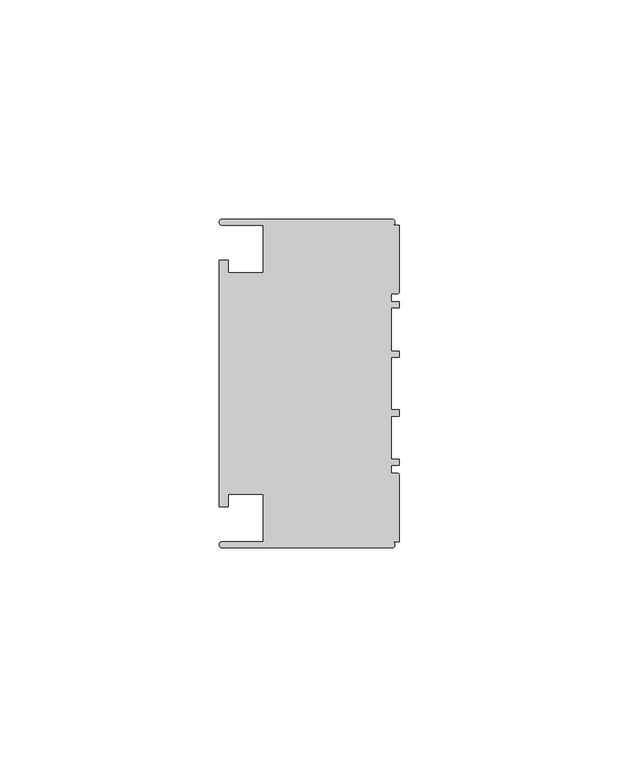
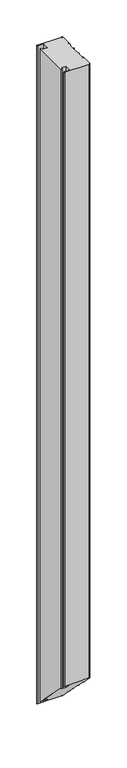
"""IFC4 building model written with IfcOpenShell, lengths in millimetres: member geometry, Прямоугольный импост : 3-AMG-2-Профиль 40Х75 Верх П."""

from ifc_helpers import new_model, si_unit, frame, origin, place, context, project, spatial, circle_curve, ellipse_curve, source, transform, mapped, element, save
from ifc_brep_helpers import plane_surface, cylinder_surface, advanced_brep


def member_57abd591(model_context):
    return source(origin(), model_context, "Body", "AdvancedBrep", [
        advanced_brep(
        [(-1.7, -37.5, 0.0), (-1.7, -36.1, 0.0), (0.0, -36.1, 0.0), (0.0, -20.95, 0.0), (-0.5, -20.45, 0.0), (-1.8, -20.45, 0.0), (-1.8, -18.65, 0.0), (0.0, -18.65, 0.0), (0.0, -17.25, 0.0), (-1.8, -17.25, 0.0), (-1.8, -7.4, 0.0), (0.0, -7.4, 0.0), (0.0, -6.0, 0.0), (-1.8, -6.0, 0.0), (-1.8, 6.0, 0.0), (0.0, 6.0, 0.0), (0.0, 7.4, 0.0), (-1.8, 7.4, 0.0), (-1.8, 17.25, 0.0), (0.0, 17.25, 0.0), (0.0, 18.65, 0.0), (-1.8, 18.65, 0.0), (-1.8, 20.45, 0.0), (-0.5, 20.45, 0.0), (0.0, 20.95, 0.0), (0.0, 36.1, 0.0), (-1.7, 36.1, 0.0), (-1.7, 37.5, 0.0), (-40.4, 37.5, 0.0), (-40.4, 36.1, 0.0), (-31.0, 36.1, 0.0), (-31.0, 25.25, 0.0), (-39.0, 25.25, 0.0), (-39.0, 28.1, 0.0), (-41.1, 28.1, 0.0), (-41.1, -28.1, 0.0), (-39.0, -28.1, 0.0), (-39.0, -25.25, 0.0), (-31.0, -25.25, 0.0), (-31.0, -36.1, 0.0), (-40.4, -36.1, 0.0), (-40.4, -37.5, 0.0), (-1.7, -37.5, -1021.4), (-1.7, -36.1, -1022.8), (0.0, -36.1, -1022.8), (0.0, -20.95, -1037.95), (-0.5, -20.45, -1038.45), (-1.8, -20.45, -1038.45), (-1.8, -18.65, -1040.25), (0.0, -18.65, -1040.25), (0.0, -17.25, -1041.65), (-1.8, -17.25, -1041.65), (-1.8, -7.4, -1051.5), (0.0, -7.4, -1051.5), (0.0, -6.0, -1052.9), (-1.8, -6.0, -1052.9), (-1.8, 6.0, -1064.9), (0.0, 6.0, -1064.9), (0.0, 7.4, -1066.3), (-1.8, 7.4, -1066.3), (-1.8, 17.25, -1076.15), (0.0, 17.25, -1076.15), (0.0, 18.65, -1077.55), (-1.8, 18.65, -1077.55), (-1.8, 20.45, -1079.35), (-0.5, 20.45, -1079.35), (0.0, 20.95, -1079.85), (0.0, 36.1, -1095.0), (-1.7, 36.1, -1095.0), (-1.7, 37.5, -1096.4), (-40.4, 37.5, -1096.4), (-40.4, 36.1, -1095.0), (-31.0, 36.1, -1095.0), (-31.0, 25.25, -1084.15), (-39.0, 25.25, -1084.15), (-39.0, 28.1, -1087.0), (-41.1, 28.1, -1087.0), (-41.1, -28.1, -1030.8), (-39.0, -28.1, -1030.8), (-39.0, -25.25, -1033.65), (-31.0, -25.25, -1033.65), (-31.0, -36.1, -1022.8), (-40.4, -36.1, -1022.8), (-40.4, -37.5, -1021.4)],
        [
            (0, 1, circle_curve(frame((-1.7, -36.8, 0.0), z_axis=(0.0, 0.0, 1.0), x_axis=(-1.0, 0.0, 0.0)), 0.7)),
            (1, 2),
            (2, 3),
            (3, 4, circle_curve(frame((-0.5, -20.95, 0.0), z_axis=(0.0, 0.0, 1.0), x_axis=(1.0, 0.0, 0.0)), 0.5)),
            (4, 5),
            (5, 6),
            (6, 7),
            (7, 8),
            (8, 9),
            (9, 10),
            (10, 11),
            (11, 12),
            (12, 13),
            (13, 14),
            (14, 15),
            (15, 16),
            (16, 17),
            (17, 18),
            (18, 19),
            (19, 20),
            (20, 21),
            (21, 22),
            (22, 23),
            (23, 24, circle_curve(frame((-0.5, 20.95, 0.0), z_axis=(0.0, 0.0, 1.0), x_axis=(0.0, -1.0, 0.0)), 0.5)),
            (24, 25),
            (25, 26),
            (26, 27, circle_curve(frame((-1.7, 36.8, 0.0), z_axis=(0.0, 0.0, 1.0), x_axis=(-1.0, 0.0, 0.0)), 0.7)),
            (27, 28),
            (28, 29, circle_curve(frame((-40.4, 36.8, 0.0), z_axis=(0.0, 0.0, 1.0), x_axis=(-1.0, 0.0, 0.0)), 0.7)),
            (29, 30),
            (30, 31),
            (31, 32),
            (32, 33),
            (33, 34),
            (34, 35),
            (35, 36),
            (36, 37),
            (37, 38),
            (38, 39),
            (39, 40),
            (40, 41, circle_curve(frame((-40.4, -36.8, 0.0), z_axis=(0.0, 0.0, 1.0), x_axis=(-1.0, 0.0, 0.0)), 0.7)),
            (41, 0),
            (0, 42),
            (42, 43, ellipse_curve(frame((-1.7, -36.8, -1022.1), z_axis=(0.0, 0.7071067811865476, 0.7071067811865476), x_axis=(0.0, -0.7071067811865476, 0.7071067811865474)), 0.9899495, 0.7)),
            (43, 1),
            (43, 44),
            (44, 2),
            (44, 45),
            (45, 3),
            (45, 46, ellipse_curve(frame((-0.5, -20.95, -1037.95), z_axis=(0.0, 0.7071067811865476, 0.7071067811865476), x_axis=(0.0, -0.7071067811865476, 0.7071067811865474)), 0.7071068, 0.5)),
            (46, 4),
            (46, 47),
            (47, 5),
            (47, 48),
            (48, 6),
            (48, 49),
            (49, 7),
            (49, 50),
            (50, 8),
            (50, 51),
            (51, 9),
            (51, 52),
            (52, 10),
            (52, 53),
            (53, 11),
            (53, 54),
            (54, 12),
            (54, 55),
            (55, 13),
            (55, 56),
            (56, 14),
            (56, 57),
            (57, 15),
            (57, 58),
            (58, 16),
            (58, 59),
            (59, 17),
            (59, 60),
            (60, 18),
            (60, 61),
            (61, 19),
            (61, 62),
            (62, 20),
            (62, 63),
            (63, 21),
            (63, 64),
            (64, 22),
            (64, 65),
            (65, 23),
            (65, 66, ellipse_curve(frame((-0.5, 20.95, -1079.85), z_axis=(0.0, 0.7071067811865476, 0.7071067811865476), x_axis=(0.0, -0.7071067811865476, 0.7071067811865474)), 0.7071068, 0.5)),
            (66, 24),
            (66, 67),
            (67, 25),
            (67, 68),
            (68, 26),
            (68, 69, ellipse_curve(frame((-1.7, 36.8, -1095.7), z_axis=(0.0, 0.7071067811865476, 0.7071067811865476), x_axis=(0.0, -0.7071067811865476, 0.7071067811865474)), 0.9899495, 0.7)),
            (69, 27),
            (69, 70),
            (70, 28),
            (70, 71, ellipse_curve(frame((-40.4, 36.8, -1095.7), z_axis=(0.0, 0.7071067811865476, 0.7071067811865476), x_axis=(0.0, -0.7071067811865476, 0.7071067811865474)), 0.9899495, 0.7)),
            (71, 29),
            (71, 72),
            (72, 30),
            (72, 73),
            (73, 31),
            (73, 74),
            (74, 32),
            (74, 75),
            (75, 33),
            (75, 76),
            (76, 34),
            (76, 77),
            (77, 35),
            (77, 78),
            (78, 36),
            (78, 79),
            (79, 37),
            (79, 80),
            (80, 38),
            (80, 81),
            (81, 39),
            (81, 82),
            (82, 40),
            (82, 83, ellipse_curve(frame((-40.4, -36.8, -1022.1), z_axis=(0.0, 0.7071067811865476, 0.7071067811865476), x_axis=(0.0, -0.7071067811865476, 0.7071067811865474)), 0.9899495, 0.7)),
            (83, 41),
            (83, 42),
        ],
        [
            plane_surface(frame((0.0, -55.1674723, 0.0), z_axis=(0.0, 0.0, 1.0), x_axis=(-1.0, 0.0, 0.0))),
            cylinder_surface(frame((-1.7, -36.8, 0.0), z_axis=(0.0, 0.0, 1.0), x_axis=(-1.0, 0.0, 0.0)), 0.7),
            plane_surface(frame((-1.7, -36.1, 0.0), z_axis=(0.0, -1.0, 0.0), x_axis=(0.0, 0.0, -1.0))),
            plane_surface(frame((0.0, -36.1, 0.0), z_axis=(1.0, 0.0, 0.0), x_axis=(0.0, 0.0, -1.0))),
            cylinder_surface(frame((-0.5, -20.95, 0.0), z_axis=(0.0, 0.0, 1.0), x_axis=(1.0, 0.0, 0.0)), 0.5),
            plane_surface(frame((-0.5, -20.45, 0.0), z_axis=(0.0, 1.0, 0.0), x_axis=(0.0, 0.0, -1.0))),
            plane_surface(frame((-1.8, -20.45, 0.0), z_axis=(1.0, 0.0, 0.0), x_axis=(0.0, 0.0, -1.0))),
            plane_surface(frame((-1.8, -18.65, 0.0), z_axis=(0.0, -1.0, 0.0), x_axis=(0.0, 0.0, -1.0))),
            plane_surface(frame((0.0, -18.65, 0.0), z_axis=(1.0, 0.0, 0.0), x_axis=(0.0, 0.0, -1.0))),
            plane_surface(frame((0.0, -17.25, 0.0), z_axis=(0.0, 1.0, 0.0), x_axis=(0.0, 0.0, -1.0))),
            plane_surface(frame((-1.8, -17.25, 0.0), z_axis=(1.0, 0.0, 0.0), x_axis=(0.0, 0.0, -1.0))),
            plane_surface(frame((-1.8, -7.4, 0.0), z_axis=(0.0, -1.0, 0.0), x_axis=(0.0, 0.0, -1.0))),
            plane_surface(frame((0.0, -7.4, 0.0), z_axis=(1.0, 0.0, 0.0), x_axis=(0.0, 0.0, -1.0))),
            plane_surface(frame((0.0, -6.0, 0.0), z_axis=(0.0, 1.0, 0.0), x_axis=(0.0, 0.0, -1.0))),
            plane_surface(frame((-1.8, -6.0, 0.0), z_axis=(1.0, 0.0, 0.0), x_axis=(0.0, 0.0, -1.0))),
            plane_surface(frame((-1.8, 6.0, 0.0), z_axis=(0.0, -1.0, 0.0), x_axis=(0.0, 0.0, -1.0))),
            plane_surface(frame((0.0, 6.0, 0.0), z_axis=(1.0, 0.0, 0.0), x_axis=(0.0, 0.0, -1.0))),
            plane_surface(frame((0.0, 7.4, 0.0), z_axis=(0.0, 1.0, 0.0), x_axis=(0.0, 0.0, -1.0))),
            plane_surface(frame((-1.8, 7.4, 0.0), z_axis=(1.0, 0.0, 0.0), x_axis=(0.0, 0.0, -1.0))),
            plane_surface(frame((-1.8, 17.25, 0.0), z_axis=(0.0, -1.0, 0.0), x_axis=(0.0, 0.0, -1.0))),
            plane_surface(frame((0.0, 17.25, 0.0), z_axis=(1.0, 0.0, 0.0), x_axis=(0.0, 0.0, -1.0))),
            plane_surface(frame((0.0, 18.65, 0.0), z_axis=(0.0, 1.0, 0.0), x_axis=(0.0, 0.0, -1.0))),
            plane_surface(frame((-1.8, 18.65, 0.0), z_axis=(1.0, 0.0, 0.0), x_axis=(0.0, 0.0, -1.0))),
            plane_surface(frame((-1.8, 20.45, 0.0), z_axis=(0.0, -1.0, 0.0), x_axis=(0.0, 0.0, -1.0))),
            cylinder_surface(frame((-0.5, 20.95, 0.0), z_axis=(0.0, 0.0, 1.0), x_axis=(0.0, -1.0, 0.0)), 0.5),
            plane_surface(frame((0.0, 20.95, 0.0), z_axis=(1.0, 0.0, 0.0), x_axis=(0.0, 0.0, -1.0))),
            plane_surface(frame((0.0, 36.1, 0.0), z_axis=(0.0, 1.0, 0.0), x_axis=(0.0, 0.0, -1.0))),
            cylinder_surface(frame((-1.7, 36.8, 0.0), z_axis=(0.0, 0.0, 1.0), x_axis=(-1.0, 0.0, 0.0)), 0.7),
            plane_surface(frame((-1.7, 37.5, 0.0), z_axis=(0.0, 1.0, 0.0), x_axis=(0.0, 0.0, -1.0))),
            cylinder_surface(frame((-40.4, 36.8, 0.0), z_axis=(0.0, 0.0, 1.0), x_axis=(-1.0, 0.0, 0.0)), 0.7),
            plane_surface(frame((-40.4, 36.1, 0.0), z_axis=(0.0, -1.0, 0.0), x_axis=(0.0, 0.0, -1.0))),
            plane_surface(frame((-31.0, 36.1, 0.0), z_axis=(-1.0, 0.0, 0.0), x_axis=(0.0, 0.0, -1.0))),
            plane_surface(frame((-31.0, 25.25, 0.0), z_axis=(0.0, 1.0, 0.0), x_axis=(0.0, 0.0, -1.0))),
            plane_surface(frame((-39.0, 25.25, 0.0), z_axis=(1.0, 0.0, 0.0), x_axis=(0.0, 0.0, -1.0))),
            plane_surface(frame((-39.0, 28.1, 0.0), z_axis=(0.0, 1.0, 0.0), x_axis=(0.0, 0.0, -1.0))),
            plane_surface(frame((-41.1, 28.1, 0.0), z_axis=(-1.0, 0.0, 0.0), x_axis=(0.0, 0.0, -1.0))),
            plane_surface(frame((-41.1, -28.1, 0.0), z_axis=(0.0, -1.0, 0.0), x_axis=(0.0, 0.0, -1.0))),
            plane_surface(frame((-39.0, -28.1, 0.0), z_axis=(1.0, 0.0, 0.0), x_axis=(0.0, 0.0, -1.0))),
            plane_surface(frame((-39.0, -25.25, 0.0), z_axis=(0.0, -1.0, 0.0), x_axis=(0.0, 0.0, -1.0))),
            plane_surface(frame((-31.0, -25.25, 0.0), z_axis=(-1.0, 0.0, 0.0), x_axis=(0.0, 0.0, -1.0))),
            plane_surface(frame((-31.0, -36.1, 0.0), z_axis=(0.0, 1.0, 0.0), x_axis=(0.0, 0.0, -1.0))),
            cylinder_surface(frame((-40.4, -36.8, 0.0), z_axis=(0.0, 0.0, 1.0), x_axis=(-1.0, 0.0, 0.0)), 0.7),
            plane_surface(frame((-40.4, -37.5, 0.0), z_axis=(0.0, -1.0, 0.0), x_axis=(0.0, 0.0, -1.0))),
            plane_surface(frame((304.8, 0.0, -1058.9), z_axis=(0.0, -0.7071067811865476, -0.7071067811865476), x_axis=(0.0, -0.7071067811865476, 0.7071067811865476))),
        ],
        [
            (0, [[1, 2, 3, 4, 5, 6, 7, 8, 9, 10, 11, 12, 13, 14, 15, 16, 17, 18, 19, 20, 21, 22, 23, 24, 25, 26, 27, 28, 29, 30, 31, 32, 33, 34, 35, 36, 37, 38, 39, 40, 41, 42]]),
            (1, [[-1, 43, 44, 45]]),
            (2, [[-2, -45, 46, 47]]),
            (3, [[-3, -47, 48, 49]]),
            (4, [[-4, -49, 50, 51]]),
            (5, [[-5, -51, 52, 53]]),
            (6, [[-6, -53, 54, 55]]),
            (7, [[-7, -55, 56, 57]]),
            (8, [[-8, -57, 58, 59]]),
            (9, [[-9, -59, 60, 61]]),
            (10, [[-10, -61, 62, 63]]),
            (11, [[-11, -63, 64, 65]]),
            (12, [[-12, -65, 66, 67]]),
            (13, [[-13, -67, 68, 69]]),
            (14, [[-14, -69, 70, 71]]),
            (15, [[-15, -71, 72, 73]]),
            (16, [[-16, -73, 74, 75]]),
            (17, [[-17, -75, 76, 77]]),
            (18, [[-18, -77, 78, 79]]),
            (19, [[-19, -79, 80, 81]]),
            (20, [[-20, -81, 82, 83]]),
            (21, [[-21, -83, 84, 85]]),
            (22, [[-22, -85, 86, 87]]),
            (23, [[-23, -87, 88, 89]]),
            (24, [[-24, -89, 90, 91]]),
            (25, [[-25, -91, 92, 93]]),
            (26, [[-26, -93, 94, 95]]),
            (27, [[-27, -95, 96, 97]]),
            (28, [[-28, -97, 98, 99]]),
            (29, [[-29, -99, 100, 101]]),
            (30, [[-30, -101, 102, 103]]),
            (31, [[-31, -103, 104, 105]]),
            (32, [[-32, -105, 106, 107]]),
            (33, [[-33, -107, 108, 109]]),
            (34, [[-34, -109, 110, 111]]),
            (35, [[-35, -111, 112, 113]]),
            (36, [[-36, -113, 114, 115]]),
            (37, [[-37, -115, 116, 117]]),
            (38, [[-38, -117, 118, 119]]),
            (39, [[-39, -119, 120, 121]]),
            (40, [[-40, -121, 122, 123]]),
            (41, [[-41, -123, 124, 125]]),
            (42, [[-42, -125, 126, -43]]),
            (43, [[-126, -124, -122, -120, -118, -116, -114, -112, -110, -108, -106, -104, -102, -100, -98, -96, -94, -92, -90, -88, -86, -84, -82, -80, -78, -76, -74, -72, -70, -68, -66, -64, -62, -60, -58, -56, -54, -52, -50, -48, -46, -44]]),
        ],
    ),
    ])


if __name__ == "__main__":
    model = new_model("IFC4")
    model_context = context("Model", 3, world=origin())
    ifc_project = project(units=[si_unit("LENGTHUNIT", "METRE", prefix="MILLI")], contexts=[model_context])
    site = spatial("IfcSite", under=ifc_project)
    building = spatial("IfcBuilding", under=site)
    placement = place(None, origin())
    member_shape = member_57abd591(model_context)
    element("IfcMember", 1, ObjectType="Прямоугольный импост : 3-AMG-2-Профиль 40Х75 Верх П", at=placement, inside=building, context=model_context, shape_type="MappedRepresentation", body=[
        mapped(member_shape, transform((0.0, 0.0, 0.0), x_axis=(1.0, 0.0, 0.0), y_axis=(0.0, 1.0, 0.0), z_axis=(0.0, 0.0, 1.0))),
    ])
    save(model, "model.ifc")
